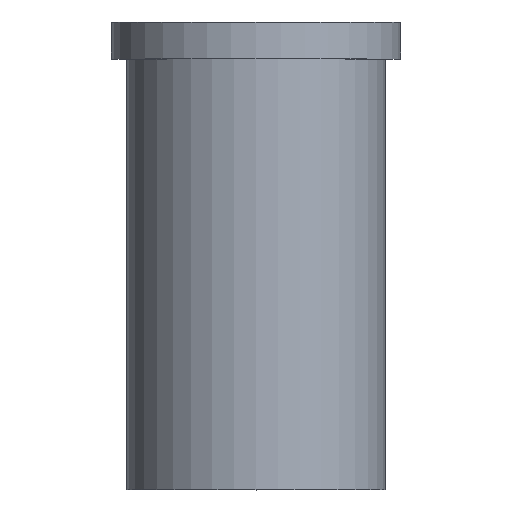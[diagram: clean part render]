
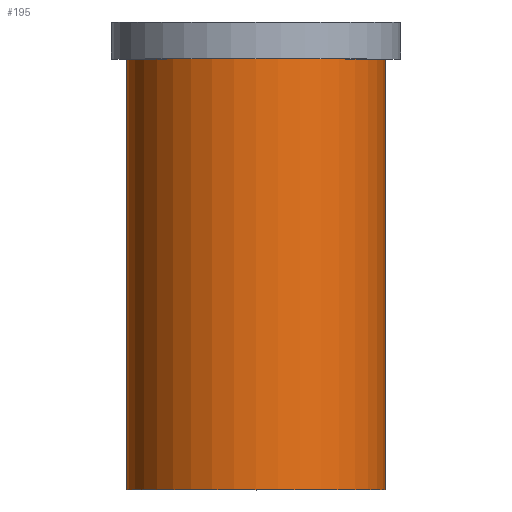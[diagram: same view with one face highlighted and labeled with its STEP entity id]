
A CAD part, top view. The second image highlights one B-rep face of the part: STEP entity #195.
In plain terms, the highlighted cylindrical face has radius 21 mm (diameter 42 mm), a full revolution.
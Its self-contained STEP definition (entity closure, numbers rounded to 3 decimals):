
#32=ORIENTED_EDGE('',*,*,#50,.T.);
#33=ORIENTED_EDGE('',*,*,#49,.F.);
#49=EDGE_CURVE('',#59,#59,#69,.T.);
#50=EDGE_CURVE('',#60,#60,#70,.T.);
#59=VERTEX_POINT('',#280);
#60=VERTEX_POINT('',#283);
#69=CIRCLE('',#213,21.);
#70=CIRCLE('',#215,21.);
#82=EDGE_LOOP('',(#32));
#83=EDGE_LOOP('',(#33));
#102=FACE_BOUND('',#82,.T.);
#103=FACE_BOUND('',#83,.T.);
#117=CYLINDRICAL_SURFACE('',#214,21.);
#195=ADVANCED_FACE('',(#102,#103),#117,.T.);
#213=AXIS2_PLACEMENT_3D('',#279,#241,#242);
#214=AXIS2_PLACEMENT_3D('',#281,#243,#244);
#215=AXIS2_PLACEMENT_3D('',#282,#245,#246);
#241=DIRECTION('',(0.,-1.,0.));
#242=DIRECTION('',(0.,0.,-1.));
#243=DIRECTION('',(0.,-1.,0.));
#244=DIRECTION('',(0.,0.,-1.));
#245=DIRECTION('',(0.,-1.,0.));
#246=DIRECTION('',(0.,0.,-1.));
#279=CARTESIAN_POINT('',(0.,0.,0.));
#280=CARTESIAN_POINT('',(0.,0.,-21.));
#281=CARTESIAN_POINT('',(0.,0.,0.));
#282=CARTESIAN_POINT('',(0.,70.,0.));
#283=CARTESIAN_POINT('',(0.,70.,-21.));
